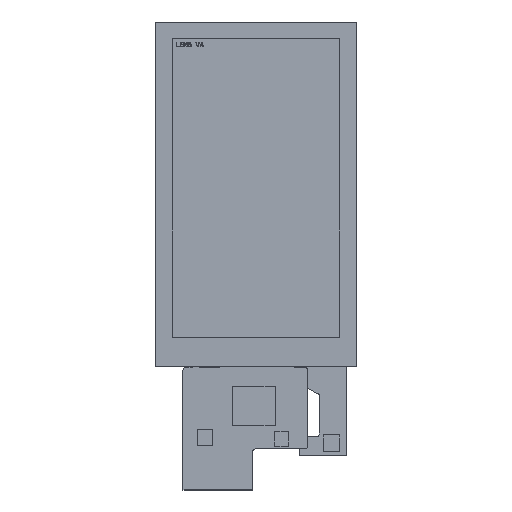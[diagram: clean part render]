
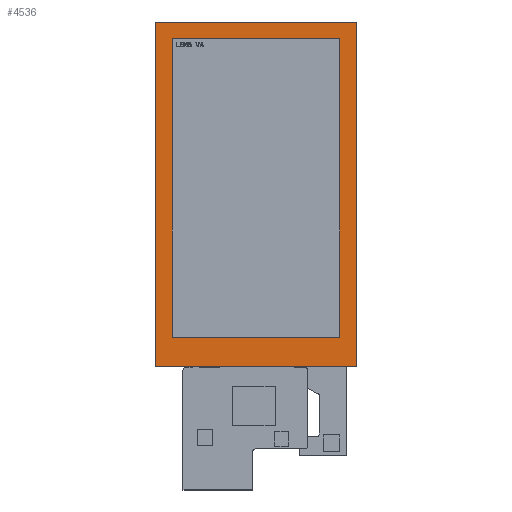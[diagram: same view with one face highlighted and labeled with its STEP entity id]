
A CAD part, top view. The second image highlights one B-rep face of the part: STEP entity #4536.
In plain terms, the highlighted planar face has unit normal (0, 0, 1).
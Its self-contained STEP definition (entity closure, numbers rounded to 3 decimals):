
#1004=CARTESIAN_POINT('',(3.201,48.398,1.));
#1005=DIRECTION('',(0.,0.,1.));
#1006=DIRECTION('',(-1.,0.,0.));
#1007=AXIS2_PLACEMENT_3D('',#1004,#1005,#1006);
#1009=DIRECTION('',(0.,-1.,0.));
#1010=VECTOR('',#1009,125.127);
#1011=CARTESIAN_POINT('',(2.701,173.524,1.));
#1012=LINE('',#1011,#1010);
#1013=CARTESIAN_POINT('',(3.201,173.524,1.));
#1014=DIRECTION('',(0.,0.,1.));
#1015=DIRECTION('',(0.,1.,0.));
#1016=AXIS2_PLACEMENT_3D('',#1013,#1014,#1015);
#1018=DIRECTION('',(-1.,0.,0.));
#1019=VECTOR('',#1018,72.332);
#1020=CARTESIAN_POINT('',(75.533,174.024,1.));
#1021=LINE('',#1020,#1019);
#1022=CARTESIAN_POINT('',(75.533,173.524,1.));
#1023=DIRECTION('',(0.,0.,1.));
#1024=DIRECTION('',(1.,0.,0.));
#1025=AXIS2_PLACEMENT_3D('',#1022,#1023,#1024);
#1027=DIRECTION('',(0.,1.,0.));
#1028=VECTOR('',#1027,125.127);
#1029=CARTESIAN_POINT('',(76.033,48.398,1.));
#1030=LINE('',#1029,#1028);
#1031=CARTESIAN_POINT('',(75.533,48.398,1.));
#1032=DIRECTION('',(0.,0.,1.));
#1033=DIRECTION('',(0.,-1.,0.));
#1034=AXIS2_PLACEMENT_3D('',#1031,#1032,#1033);
#1036=DIRECTION('',(1.,0.,0.));
#1037=VECTOR('',#1036,72.332);
#1038=CARTESIAN_POINT('',(3.201,47.898,1.));
#1039=LINE('',#1038,#1037);
#1040=DIRECTION('',(1.,0.,0.));
#1041=VECTOR('',#1040,61.232);
#1042=CARTESIAN_POINT('',(8.751,58.721,1.));
#1043=LINE('',#1042,#1041);
#1044=DIRECTION('',(0.,1.,0.));
#1045=VECTOR('',#1044,109.254);
#1046=CARTESIAN_POINT('',(69.983,58.721,1.));
#1047=LINE('',#1046,#1045);
#1048=DIRECTION('',(-1.,0.,0.));
#1049=VECTOR('',#1048,61.232);
#1050=CARTESIAN_POINT('',(69.983,167.974,1.));
#1051=LINE('',#1050,#1049);
#1052=DIRECTION('',(0.,-1.,0.));
#1053=VECTOR('',#1052,109.254);
#1054=CARTESIAN_POINT('',(8.751,167.974,1.));
#1055=LINE('',#1054,#1053);
#2416=CARTESIAN_POINT('',(2.701,48.398,1.));
#2417=CARTESIAN_POINT('',(3.201,47.898,1.));
#2418=VERTEX_POINT('',#2416);
#2419=VERTEX_POINT('',#2417);
#2420=CARTESIAN_POINT('',(75.533,47.898,1.));
#2421=VERTEX_POINT('',#2420);
#2422=CARTESIAN_POINT('',(76.033,48.398,1.));
#2423=VERTEX_POINT('',#2422);
#2424=CARTESIAN_POINT('',(76.033,173.524,1.));
#2425=VERTEX_POINT('',#2424);
#2426=CARTESIAN_POINT('',(75.533,174.024,1.));
#2427=VERTEX_POINT('',#2426);
#2428=CARTESIAN_POINT('',(3.201,174.024,1.));
#2429=VERTEX_POINT('',#2428);
#2430=CARTESIAN_POINT('',(2.701,173.524,1.));
#2431=VERTEX_POINT('',#2430);
#2640=CARTESIAN_POINT('',(8.751,58.721,1.));
#2641=CARTESIAN_POINT('',(69.983,58.721,1.));
#2642=VERTEX_POINT('',#2640);
#2643=VERTEX_POINT('',#2641);
#2644=CARTESIAN_POINT('',(69.983,167.974,1.));
#2645=VERTEX_POINT('',#2644);
#2646=CARTESIAN_POINT('',(8.751,167.974,1.));
#2647=VERTEX_POINT('',#2646);
#4511=CARTESIAN_POINT('',(0.,0.,1.));
#4512=DIRECTION('',(0.,0.,1.));
#4513=DIRECTION('',(1.,0.,0.));
#4514=AXIS2_PLACEMENT_3D('',#4511,#4512,#4513);
#4515=PLANE('',#4514);
#4516=ORIENTED_EDGE('',*,*,#3334,.F.);
#4517=ORIENTED_EDGE('',*,*,#3320,.F.);
#4518=ORIENTED_EDGE('',*,*,#3306,.F.);
#4519=ORIENTED_EDGE('',*,*,#3292,.F.);
#4520=ORIENTED_EDGE('',*,*,#3278,.F.);
#4521=ORIENTED_EDGE('',*,*,#4506,.F.);
#4522=ORIENTED_EDGE('',*,*,#4493,.F.);
#4523=ORIENTED_EDGE('',*,*,#3348,.F.);
#4524=EDGE_LOOP('',(#4516,#4517,#4518,#4519,#4520,#4521,#4522,#4523));
#4525=FACE_OUTER_BOUND('',#4524,.F.);
#4527=ORIENTED_EDGE('',*,*,#4526,.T.);
#4529=ORIENTED_EDGE('',*,*,#4528,.T.);
#4531=ORIENTED_EDGE('',*,*,#4530,.T.);
#4533=ORIENTED_EDGE('',*,*,#4532,.T.);
#4534=EDGE_LOOP('',(#4527,#4529,#4531,#4533));
#4535=FACE_BOUND('',#4534,.F.);
#1008=CIRCLE('',#1007,0.5);
#1017=CIRCLE('',#1016,0.5);
#1026=CIRCLE('',#1025,0.5);
#1035=CIRCLE('',#1034,0.5);
#3278=EDGE_CURVE('',#2425,#2427,#1026,.T.);
#3292=EDGE_CURVE('',#2427,#2429,#1021,.T.);
#3306=EDGE_CURVE('',#2429,#2431,#1017,.T.);
#3320=EDGE_CURVE('',#2431,#2418,#1012,.T.);
#3334=EDGE_CURVE('',#2418,#2419,#1008,.T.);
#3348=EDGE_CURVE('',#2419,#2421,#1039,.T.);
#4493=EDGE_CURVE('',#2421,#2423,#1035,.T.);
#4506=EDGE_CURVE('',#2423,#2425,#1030,.T.);
#4526=EDGE_CURVE('',#2642,#2643,#1043,.T.);
#4528=EDGE_CURVE('',#2643,#2645,#1047,.T.);
#4530=EDGE_CURVE('',#2645,#2647,#1051,.T.);
#4532=EDGE_CURVE('',#2647,#2642,#1055,.T.);
#4536=ADVANCED_FACE('',(#4525,#4535),#4515,.T.);
